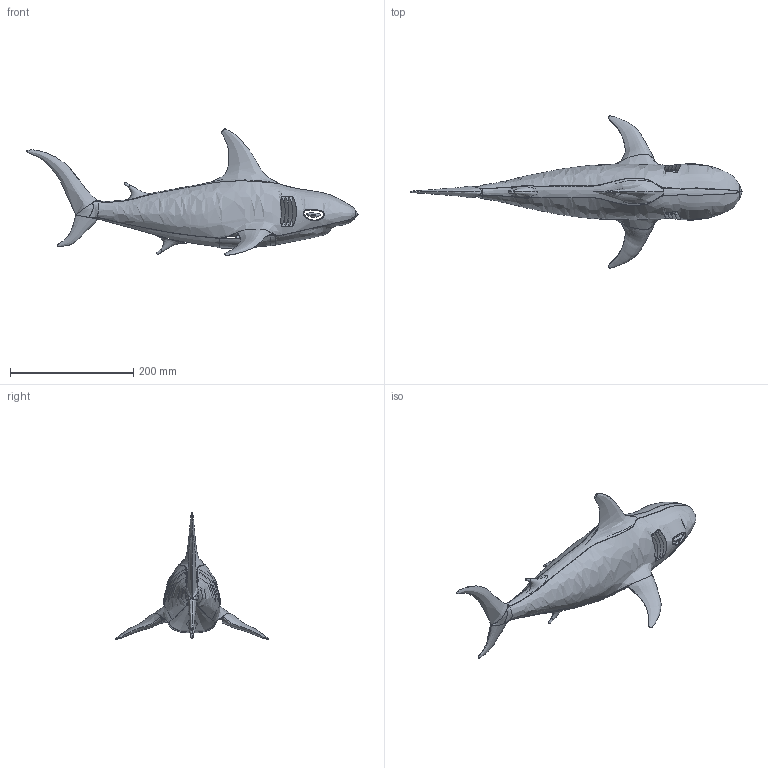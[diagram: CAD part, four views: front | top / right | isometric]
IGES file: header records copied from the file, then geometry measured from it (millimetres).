
Global section: file name: SHARK.MC8; native system: MASTERCAM; preprocessor: 1; date: 011228.174946; units: inch
Bounding box: 539.02 x 247.11 x 205.35 mm (x, y, z)
Surface area: 138962.6 mm2 (no closed solid volume)
Topology: 0 solids, 0 shells, 77 faces, 2572 edges, 2554 vertices
Faces by surface type: bspline 75, offset 2
